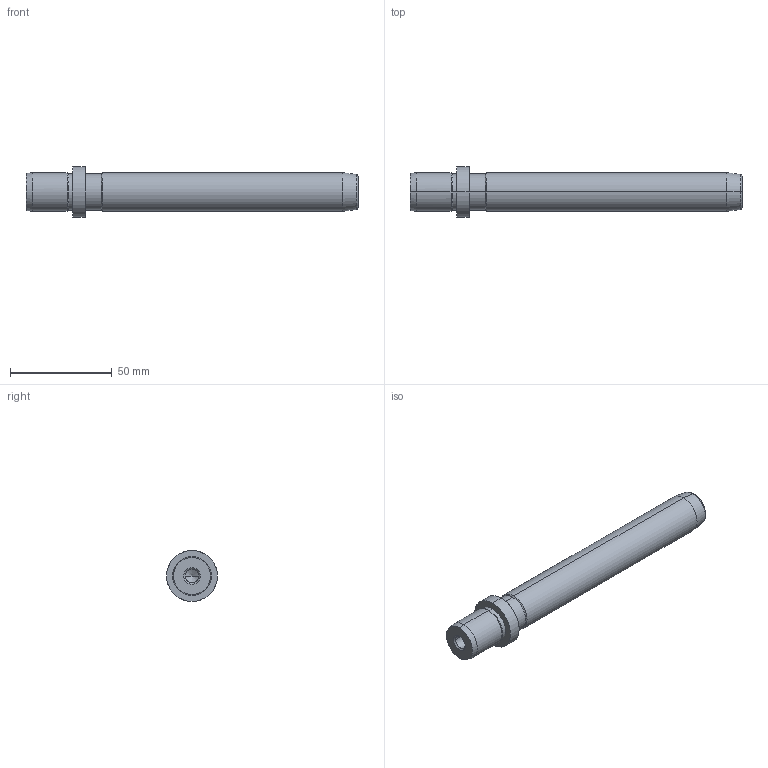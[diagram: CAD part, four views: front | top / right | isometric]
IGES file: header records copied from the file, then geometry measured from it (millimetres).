
Start section: START RECORD GO HERE.
Global section: file name: 718-19x140.igs; native system: DASSAULT SYSTEMES CATIA V5 R20 - www.3ds.com; preprocessor: CATIA Version 5 Release 20 ; author: Utente; organization: NB04-ASUS; date: 20210102.164140; units: millimetre
Bounding box: 163 x 25 x 25 mm (x, y, z)
Surface area: 11742.8 mm2 (no closed solid volume)
Topology: 0 solids, 0 shells, 36 faces, 196 edges, 192 vertices
Faces by surface type: revolution 32, plane 4
